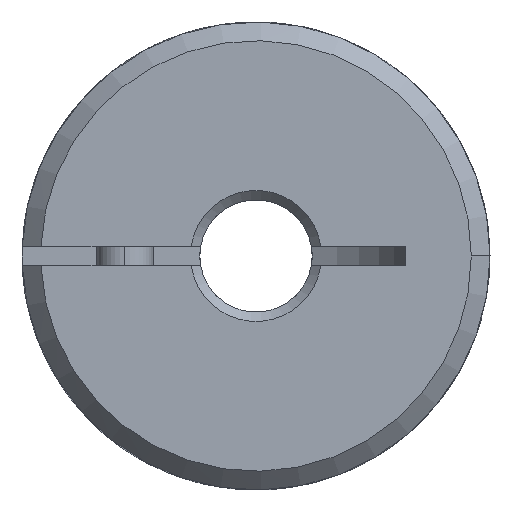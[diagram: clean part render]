
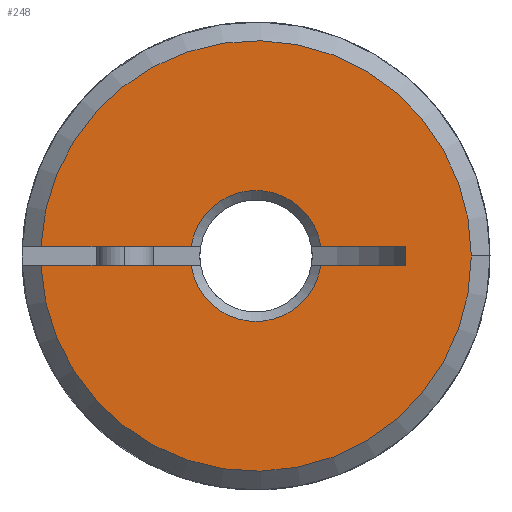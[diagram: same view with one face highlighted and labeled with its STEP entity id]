
A CAD part, left-side view. The second image highlights one B-rep face of the part: STEP entity #248.
In plain terms, the highlighted planar face has unit normal (-1, 0, 0).
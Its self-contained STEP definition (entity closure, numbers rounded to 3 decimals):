
#248 = ADVANCED_FACE( '', ( #457 ), #458, .T. );
#457 = FACE_OUTER_BOUND( '', #702, .T. );
#458 = PLANE( '', #703 );
#702 = EDGE_LOOP( '', ( #1482, #1483, #1484, #1485, #1486, #1487, #1488, #1489, #1490 ) );
#703 = AXIS2_PLACEMENT_3D( '', #1491, #1492, #1493 );
#1482 = ORIENTED_EDGE( '', *, *, #1944, .T. );
#1483 = ORIENTED_EDGE( '', *, *, #1739, .T. );
#1484 = ORIENTED_EDGE( '', *, *, #1963, .T. );
#1485 = ORIENTED_EDGE( '', *, *, #1948, .T. );
#1486 = ORIENTED_EDGE( '', *, *, #1964, .F. );
#1487 = ORIENTED_EDGE( '', *, *, #1950, .T. );
#1488 = ORIENTED_EDGE( '', *, *, #1958, .T. );
#1489 = ORIENTED_EDGE( '', *, *, #1940, .T. );
#1490 = ORIENTED_EDGE( '', *, *, #1965, .F. );
#1491 = CARTESIAN_POINT( '', ( 0., 7.5, 0. ) );
#1492 = DIRECTION( '', ( -1., 0., 0. ) );
#1493 = DIRECTION( '', ( 0., 1., 0. ) );
#1739 = EDGE_CURVE( '', #2065, #2062, #2066, .T. );
#1940 = EDGE_CURVE( '', #2403, #2404, #2405, .T. );
#1944 = EDGE_CURVE( '', #2411, #2065, #2412, .T. );
#1948 = EDGE_CURVE( '', #2418, #2416, #2419, .T. );
#1950 = EDGE_CURVE( '', #2421, #2422, #2423, .T. );
#1958 = EDGE_CURVE( '', #2422, #2403, #2434, .T. );
#1963 = EDGE_CURVE( '', #2062, #2418, #2440, .T. );
#1964 = EDGE_CURVE( '', #2421, #2416, #2441, .T. );
#1965 = EDGE_CURVE( '', #2411, #2404, #2442, .T. );
#2062 = VERTEX_POINT( '', #2602 );
#2065 = VERTEX_POINT( '', #2606 );
#2066 = CIRCLE( '', #2607, 11.5 );
#2403 = VERTEX_POINT( '', #3257 );
#2404 = VERTEX_POINT( '', #3258 );
#2405 = LINE( '', #3259, #3260 );
#2411 = VERTEX_POINT( '', #3276 );
#2412 = LINE( '', #3277, #3278 );
#2416 = VERTEX_POINT( '', #3292 );
#2418 = VERTEX_POINT( '', #3303 );
#2419 = LINE( '', #3304, #3305 );
#2421 = VERTEX_POINT( '', #3316 );
#2422 = VERTEX_POINT( '', #3317 );
#2423 = LINE( '', #3318, #3319 );
#2434 = LINE( '', #3368, #3369 );
#2440 = CIRCLE( '', #3390, 11.5 );
#2441 = CIRCLE( '', #3391, 3.5 );
#2442 = CIRCLE( '', #3392, 3.5 );
#2602 = CARTESIAN_POINT( '', ( 0., -11.5, 0. ) );
#2606 = CARTESIAN_POINT( '', ( 0., 11.489, -0.5 ) );
#2607 = AXIS2_PLACEMENT_3D( '', #3578, #3579, #3580 );
#3257 = CARTESIAN_POINT( '', ( 0., -8.006, -0.5 ) );
#3258 = CARTESIAN_POINT( '', ( 0., -3.464, -0.5 ) );
#3259 = CARTESIAN_POINT( '', ( 0., 3.75, -0.5 ) );
#3260 = VECTOR( '', #3975, 1. );
#3276 = CARTESIAN_POINT( '', ( 0., 3.464, -0.5 ) );
#3277 = CARTESIAN_POINT( '', ( 0., 3.75, -0.5 ) );
#3278 = VECTOR( '', #3980, 1. );
#3292 = CARTESIAN_POINT( '', ( 0., 3.464, 0.5 ) );
#3303 = CARTESIAN_POINT( '', ( 0., 11.489, 0.5 ) );
#3304 = CARTESIAN_POINT( '', ( 0., 3.75, 0.5 ) );
#3305 = VECTOR( '', #3982, 1. );
#3316 = CARTESIAN_POINT( '', ( 0., -3.464, 0.5 ) );
#3317 = CARTESIAN_POINT( '', ( 0., -8.006, 0.5 ) );
#3318 = CARTESIAN_POINT( '', ( 0., 3.75, 0.5 ) );
#3319 = VECTOR( '', #3983, 1. );
#3368 = CARTESIAN_POINT( '', ( 0., -8.006, 0. ) );
#3369 = VECTOR( '', #3989, 1. );
#3390 = AXIS2_PLACEMENT_3D( '', #3994, #3995, #3996 );
#3391 = AXIS2_PLACEMENT_3D( '', #3997, #3998, #3999 );
#3392 = AXIS2_PLACEMENT_3D( '', #4000, #4001, #4002 );
#3578 = CARTESIAN_POINT( '', ( 0., 0., 0. ) );
#3579 = DIRECTION( '', ( -1., 0., 0. ) );
#3580 = DIRECTION( '', ( 0., 1., 0. ) );
#3975 = DIRECTION( '', ( 0., 1., 0. ) );
#3980 = DIRECTION( '', ( 0., 1., 0. ) );
#3982 = DIRECTION( '', ( 0., -1., 0. ) );
#3983 = DIRECTION( '', ( 0., -1., 0. ) );
#3989 = DIRECTION( '', ( 0., 0., -1. ) );
#3994 = CARTESIAN_POINT( '', ( 0., 0., 0. ) );
#3995 = DIRECTION( '', ( -1., 0., 0. ) );
#3996 = DIRECTION( '', ( 0., 1., 0. ) );
#3997 = CARTESIAN_POINT( '', ( 0., 0., 0. ) );
#3998 = DIRECTION( '', ( -1., 0., 0. ) );
#3999 = DIRECTION( '', ( 0., 1., 0. ) );
#4000 = CARTESIAN_POINT( '', ( 0., 0., 0. ) );
#4001 = DIRECTION( '', ( -1., 0., 0. ) );
#4002 = DIRECTION( '', ( 0., 1., 0. ) );
